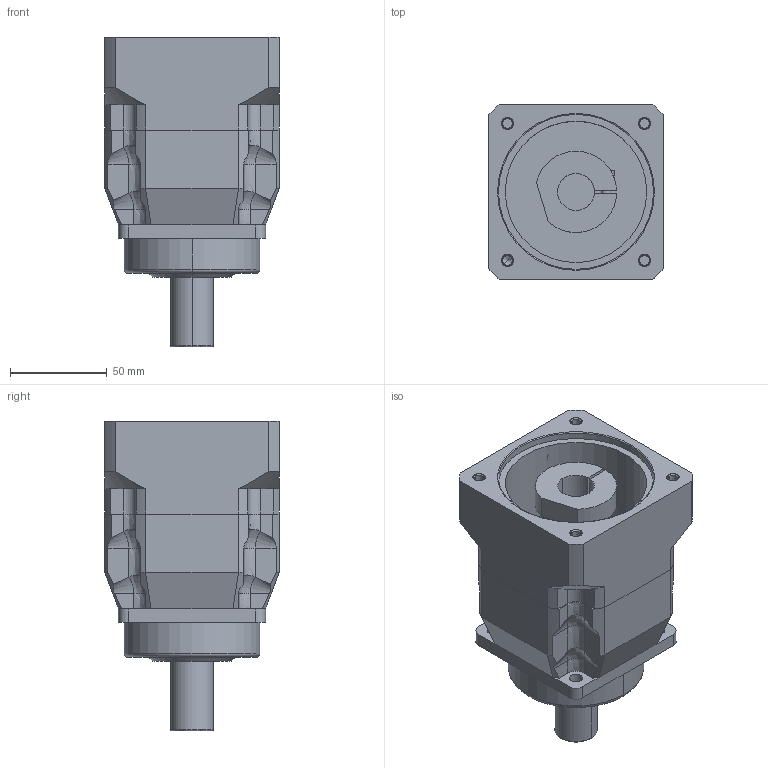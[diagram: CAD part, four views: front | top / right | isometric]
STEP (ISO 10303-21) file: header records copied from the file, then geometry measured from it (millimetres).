
FILE_DESCRIPTION((''),'2;1');
FILE_NAME('AF0751-P4030101_ASM','2005-09-13T',('jacky'),(''),'PRO/ENGINEER BY PARAMETRIC TECHNOLOGY CORPORATION, 2001280','PRO/ENGINEER BY PARAMETRIC TECHNOLOGY CORPORATION, 2001280','');
FILE_SCHEMA(('CONFIG_CONTROL_DESIGN'));
Length unit declared in the file: millimetre
Products named in the file (3): AF0751; P4030101; AF0751-P4030101_ASM
Assembly tree (2 placements, depth 2):
  AF0751-P4030101_ASM
    AF0751
    P4030101
Bounding box: 90 x 90 x 160 mm (x, y, z)
Volume: 629822.5 mm3; surface area: 84760.7 mm2
Topology: 2 solids, 7 shells, 237 faces, 585 edges, 366 vertices
Faces by surface type: plane 88, cylinder 77, bspline 44, cone 20, torus 8
Entity records: 9818 total; most frequent: CARTESIAN_POINT 4225, ORIENTED_EDGE 1140, DIRECTION 1115, EDGE_CURVE 581, AXIS2_PLACEMENT_3D 413, VERTEX_POINT 366, VECTOR 289, LINE 289
